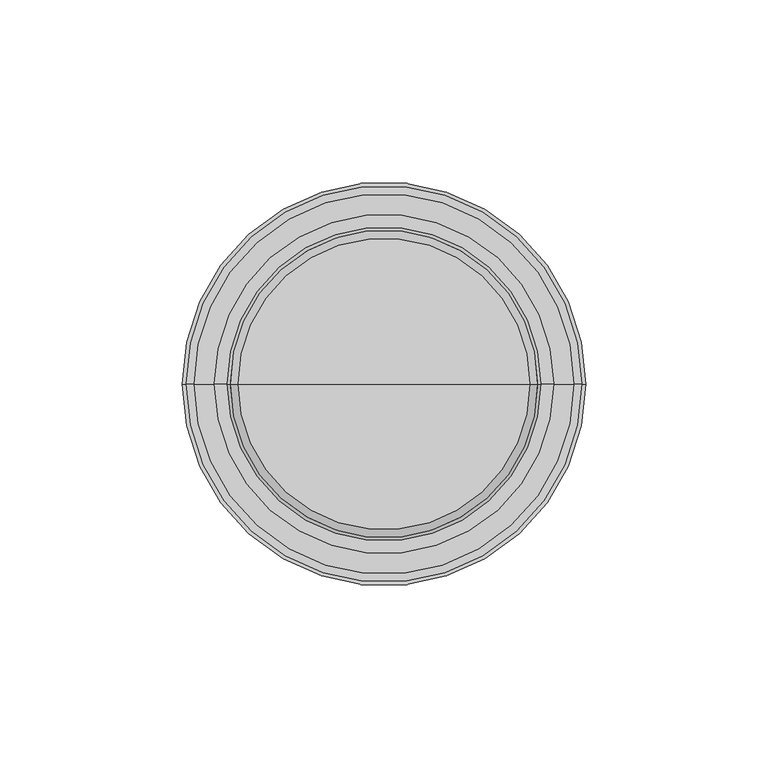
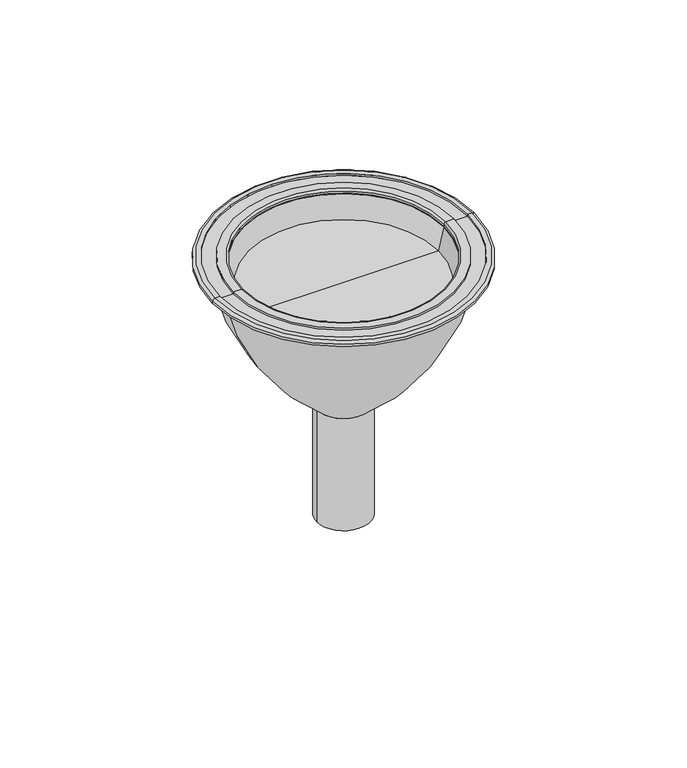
"""IFC4 building model written with IfcOpenShell, lengths in millimetres: light fixture geometry, CS HALLA RAVO (vestavné) : CS HALLA RAVO (vestavné)."""

from ifc_helpers import new_model, si_unit, point, frame, origin, place, context, project, spatial, polyline, circle_curve, ellipse_curve, trimmed, source, transform, mapped, element, save
from ifc_brep_helpers import plane_surface, cylinder_surface, revolved_surface, advanced_brep


def light_fixture_bf0697d5(model_context):
    return source(origin(), model_context, "Body", "AdvancedBrep", [
        advanced_brep(
        [(39.9833955, 0.0, -10.0), (-39.9833955, 0.0, -10.0), (0.0, 0.0, -10.0), (11.25, 0.0, -113.0), (-11.25, 0.0, -113.0), (-11.25, 0.0, -63.0), (11.25, 0.0, -63.0), (0.0, 0.0, -113.0), (50.6167692, 0.0, 0.0), (-50.6167692, 0.0, 0.0), (-42.25, 0.0, 0.0), (42.25, 0.0, 0.0)],
        [
            (0, 1, circle_curve(frame((0.0, 0.0, -10.0), z_axis=(0.0, 0.0, 1.0), x_axis=(-1.0, 0.0, 0.0)), 39.9833955)),
            (1, 2),
            (2, 0),
            (1, 0, circle_curve(frame((0.0, 0.0, -10.0), z_axis=(0.0, 0.0, 1.0), x_axis=(-1.0, 0.0, 0.0)), 39.9833955)),
            (3, 4, circle_curve(frame((0.0, 0.0, -113.0), z_axis=(0.0, 0.0, 1.0), x_axis=(-1.0, 0.0, 0.0)), 11.25)),
            (4, 5),
            (5, 6, circle_curve(frame((0.0, 0.0, -63.0), z_axis=(0.0, 0.0, -1.0), x_axis=(-1.0, 0.0, 0.0)), 11.25)),
            (6, 3),
            (4, 3, circle_curve(frame((0.0, 0.0, -113.0), z_axis=(0.0, 0.0, 1.0), x_axis=(-1.0, 0.0, 0.0)), 11.25)),
            (6, 5, circle_curve(frame((0.0, 0.0, -63.0), z_axis=(0.0, 0.0, -1.0), x_axis=(-1.0, 0.0, 0.0)), 11.25)),
            (7, 4),
            (3, 7),
            (8, 9, circle_curve(frame((0.0, 0.0, 0.0), z_axis=(0.0, 0.0, 1.0), x_axis=(-1.0, 0.0, 0.0)), 50.6167692)),
            (9, 10),
            (10, 11, circle_curve(frame((0.0, 0.0, 0.0), z_axis=(0.0, 0.0, -1.0), x_axis=(-1.0, 0.0, 0.0)), 42.25)),
            (11, 8),
            (9, 8, circle_curve(frame((0.0, 0.0, 0.0), z_axis=(0.0, 0.0, 1.0), x_axis=(-1.0, 0.0, 0.0)), 50.6167692)),
            (11, 10, circle_curve(frame((0.0, 0.0, 0.0), z_axis=(0.0, 0.0, -1.0), x_axis=(-1.0, 0.0, 0.0)), 42.25)),
            (5, 9, circle_curve(frame((55.6732, 0.0, 22.6178004), z_axis=(0.0, 1.0, 0.0), x_axis=(1.0, 0.0, 0.0)), 108.6697862)),
            (8, 6, circle_curve(frame((-55.6732, 0.0, 22.6178004), z_axis=(0.0, 1.0, 0.0), x_axis=(-1.0, 0.0, 0.0)), 108.6697862)),
            (10, 1, circle_curve(frame((37.7239368, 0.0, 12.8700537), z_axis=(0.0, -1.0, 0.0), x_axis=(1.0, 0.0, 0.0)), 81.0028941)),
            (0, 11, circle_curve(frame((-37.7239368, 0.0, 12.8700537), z_axis=(0.0, -1.0, 0.0), x_axis=(-1.0, 0.0, 0.0)), 81.0028941)),
        ],
        [
            plane_surface(frame((0.0, 0.0, -10.0), z_axis=(0.0, 0.0, 1.0), x_axis=(-1.0, 0.0, 0.0))),
            cylinder_surface(frame((0.0, 0.0, 2614.5980926), z_axis=(0.0, 0.0, -1.0), x_axis=(-1.0, 0.0, 0.0)), 11.25),
            plane_surface(frame((0.0, 0.0, -113.0), z_axis=(0.0, 0.0, -1.0), x_axis=(-1.0, 0.0, 0.0))),
            plane_surface(frame((0.0, 0.0, 0.0), z_axis=(0.0, 0.0, 1.0), x_axis=(-1.0, 0.0, 0.0))),
            revolved_surface(trimmed(ellipse_curve(frame((55.6732, 0.0, 22.6178004), z_axis=(0.0, -1.0, 0.0), x_axis=(1.0, 0.0, 0.0)), 108.6697862, 108.6697862), [point((-50.6167692, 0.0, 0.0))], [point((-11.25, 0.0, -63.0))], True, "CARTESIAN"), (0.0, 0.0, 2614.5980926), (0.0, 0.0, -1.0)),
            revolved_surface(trimmed(ellipse_curve(frame((37.7239368, 0.0, 12.8700537), z_axis=(0.0, 1.0, 0.0), x_axis=(1.0, 0.0, 0.0)), 81.0028941, 81.0028941), [point((-39.9833955, 0.0, -10.0))], [point((-42.25, 0.0, 0.0))], True, "CARTESIAN"), (0.0, 0.0, 2614.5980926), (0.0, 0.0, -1.0)),
        ],
        [
            (0, [[1, 2, 3]]),
            (0, [[4, -3, -2]]),
            (1, [[5, 6, 7, 8]]),
            (1, [[9, -8, 10, -6]]),
            (2, [[11, -5, 12]]),
            (2, [[-12, -9, -11]]),
            (3, [[13, 14, 15, 16]]),
            (3, [[17, -16, 18, -14]]),
            (4, [[-7, 19, -13, 20]]),
            (4, [[-10, -20, -17, -19]]),
            (5, [[-15, 21, -1, 22]]),
            (5, [[-18, -22, -4, -21]]),
        ],
    ),
        advanced_brep(
        [(42.25, 0.0, 0.0), (-42.25, 0.0, 0.0), (-55.3683433, 0.0, 0.0), (55.3683433, 0.0, 0.0), (42.25, 0.0, 1.1264135), (-42.25, 0.0, 1.1264135), (46.5528014, 0.0, 2.0), (-46.5528014, 0.0, 2.0), (-43.1235865, 0.0, 2.0), (43.1235865, 0.0, 2.0), (55.3683433, 0.0, 1.0337095), (-55.3683433, 0.0, 1.0337095), (-54.4020528, 0.0, 2.0), (54.4020528, 0.0, 2.0), (46.5528014, 0.0, 1.1575382), (-46.5528014, 0.0, 1.1575382), (52.2457321, 0.0, 1.1575382), (-52.2457321, 0.0, 1.1575382), (52.2457321, 0.0, 2.0), (-52.2457321, 0.0, 2.0)],
        [
            (0, 1, circle_curve(frame((0.0, 0.0, 0.0), z_axis=(0.0, 0.0, 1.0), x_axis=(-1.0, 0.0, 0.0)), 42.25)),
            (1, 2),
            (2, 3, circle_curve(frame((0.0, 0.0, 0.0), z_axis=(0.0, 0.0, -1.0), x_axis=(-1.0, 0.0, 0.0)), 55.3683433)),
            (3, 0),
            (1, 0, circle_curve(frame((0.0, 0.0, 0.0), z_axis=(0.0, 0.0, 1.0), x_axis=(-1.0, 0.0, 0.0)), 42.25)),
            (3, 2, circle_curve(frame((0.0, 0.0, 0.0), z_axis=(0.0, 0.0, -1.0), x_axis=(-1.0, 0.0, 0.0)), 55.3683433)),
            (4, 5, circle_curve(frame((0.0, 0.0, 1.1264135), z_axis=(0.0, 0.0, 1.0), x_axis=(-1.0, 0.0, 0.0)), 42.25)),
            (5, 1),
            (0, 4),
            (5, 4, circle_curve(frame((0.0, 0.0, 1.1264135), z_axis=(0.0, 0.0, 1.0), x_axis=(-1.0, 0.0, 0.0)), 42.25)),
            (6, 7, circle_curve(frame((0.0, 0.0, 2.0), z_axis=(0.0, 0.0, 1.0), x_axis=(-1.0, 0.0, 0.0)), 46.5528014)),
            (7, 8),
            (8, 9, circle_curve(frame((0.0, 0.0, 2.0), z_axis=(0.0, 0.0, -1.0), x_axis=(-1.0, 0.0, 0.0)), 43.1235865)),
            (9, 6),
            (7, 6, circle_curve(frame((0.0, 0.0, 2.0), z_axis=(0.0, 0.0, 1.0), x_axis=(-1.0, 0.0, 0.0)), 46.5528014)),
            (9, 8, circle_curve(frame((0.0, 0.0, 2.0), z_axis=(0.0, 0.0, -1.0), x_axis=(-1.0, 0.0, 0.0)), 43.1235865)),
            (10, 11, circle_curve(frame((0.0, 0.0, 1.0337095), z_axis=(0.0, 0.0, 1.0), x_axis=(-1.0, 0.0, 0.0)), 55.3683433)),
            (11, 12, circle_curve(frame((-54.4020528, 0.0, 1.0337095), z_axis=(0.0, 1.0, 0.0), x_axis=(1.0, 0.0, 0.0)), 0.9662905)),
            (12, 13, circle_curve(frame((0.0, 0.0, 2.0), z_axis=(0.0, 0.0, -1.0), x_axis=(-1.0, 0.0, 0.0)), 54.4020528)),
            (13, 10, circle_curve(frame((54.4020528, 0.0, 1.0337095), z_axis=(0.0, 1.0, 0.0), x_axis=(-1.0, 0.0, 0.0)), 0.9662905)),
            (11, 10, circle_curve(frame((0.0, 0.0, 1.0337095), z_axis=(0.0, 0.0, 1.0), x_axis=(-1.0, 0.0, 0.0)), 55.3683433)),
            (13, 12, circle_curve(frame((0.0, 0.0, 2.0), z_axis=(0.0, 0.0, -1.0), x_axis=(-1.0, 0.0, 0.0)), 54.4020528)),
            (2, 11),
            (10, 3),
            (8, 5, circle_curve(frame((-43.1235865, 0.0, 1.1264135), z_axis=(0.0, 1.0, 0.0), x_axis=(1.0, 0.0, 0.0)), 0.8735865)),
            (4, 9, circle_curve(frame((43.1235865, 0.0, 1.1264135), z_axis=(0.0, 1.0, 0.0), x_axis=(-1.0, 0.0, 0.0)), 0.8735865)),
            (14, 15, circle_curve(frame((0.0, 0.0, 1.1575382), z_axis=(0.0, 0.0, 1.0), x_axis=(-1.0, 0.0, 0.0)), 46.5528014)),
            (15, 7),
            (6, 14),
            (15, 14, circle_curve(frame((0.0, 0.0, 1.1575382), z_axis=(0.0, 0.0, 1.0), x_axis=(-1.0, 0.0, 0.0)), 46.5528014)),
            (16, 17, circle_curve(frame((0.0, 0.0, 1.1575382), z_axis=(0.0, 0.0, 1.0), x_axis=(-1.0, 0.0, 0.0)), 52.2457321)),
            (17, 15),
            (14, 16),
            (17, 16, circle_curve(frame((0.0, 0.0, 1.1575382), z_axis=(0.0, 0.0, 1.0), x_axis=(-1.0, 0.0, 0.0)), 52.2457321)),
            (18, 19, circle_curve(frame((0.0, 0.0, 2.0), z_axis=(0.0, 0.0, 1.0), x_axis=(-1.0, 0.0, 0.0)), 52.2457321)),
            (19, 17),
            (16, 18),
            (19, 18, circle_curve(frame((0.0, 0.0, 2.0), z_axis=(0.0, 0.0, 1.0), x_axis=(-1.0, 0.0, 0.0)), 52.2457321)),
            (12, 19),
            (18, 13),
        ],
        [
            plane_surface(frame((0.0, 0.0, 0.0), z_axis=(0.0, 0.0, -1.0), x_axis=(-1.0, 0.0, 0.0))),
            revolved_surface(polyline([(-42.25, 0.0, 0.0), (-42.25, 0.0, 1.126413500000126)]), (0.0, 0.0, 2609.0581012), (0.0, 0.0, -1.0)),
            plane_surface(frame((0.0, 0.0, 2.0), z_axis=(0.0, 0.0, 1.0), x_axis=(-1.0, 0.0, 0.0))),
            revolved_surface(trimmed(ellipse_curve(frame((-54.4020528, 0.0, 1.0337095), z_axis=(0.0, -1.0, 0.0), x_axis=(1.0, 0.0, 0.0)), 0.9662905, 0.9662905), [point((-54.4020528, 0.0, 2.0))], [point((-55.3683433, 0.0, 1.0337095))], True, "CARTESIAN"), (0.0, 0.0, 2609.0581012), (0.0, 0.0, -1.0)),
            cylinder_surface(frame((0.0, 0.0, 2609.0581012), z_axis=(0.0, 0.0, -1.0), x_axis=(-1.0, 0.0, 0.0)), 55.3683433),
            revolved_surface(trimmed(ellipse_curve(frame((-43.1235865, 0.0, 1.1264135), z_axis=(0.0, -1.0, 0.0), x_axis=(1.0, 0.0, 0.0)), 0.8735865, 0.8735865), [point((-42.25, 0.0, 1.1264135))], [point((-43.1235865, 0.0, 2.0))], True, "CARTESIAN"), (0.0, 0.0, 2609.0581012), (0.0, 0.0, -1.0)),
            cylinder_surface(frame((0.0, 0.0, 2609.0581012), z_axis=(0.0, 0.0, -1.0), x_axis=(-1.0, 0.0, 0.0)), 46.5528014),
            plane_surface(frame((0.0, 0.0, 1.1575382), z_axis=(0.0, 0.0, 1.0), x_axis=(-1.0, 0.0, 0.0))),
            revolved_surface(polyline([(-52.2457321, 0.0, 1.15753820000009), (-52.2457321, 0.0, 2.0)]), (0.0, 0.0, 2609.0581012), (0.0, 0.0, -1.0)),
        ],
        [
            (0, [[1, 2, 3, 4]]),
            (0, [[5, -4, 6, -2]]),
            (1, [[7, 8, -1, 9]]),
            (1, [[10, -9, -5, -8]]),
            (2, [[11, 12, 13, 14]]),
            (2, [[15, -14, 16, -12]]),
            (3, [[17, 18, 19, 20]]),
            (3, [[21, -20, 22, -18]]),
            (4, [[-3, 23, -17, 24]]),
            (4, [[-6, -24, -21, -23]]),
            (5, [[-13, 25, -7, 26]]),
            (5, [[-16, -26, -10, -25]]),
            (6, [[27, 28, -11, 29]]),
            (6, [[30, -29, -15, -28]]),
            (7, [[31, 32, -27, 33]]),
            (7, [[34, -33, -30, -32]]),
            (8, [[35, 36, -31, 37]]),
            (8, [[38, -37, -34, -36]]),
            (2, [[-19, 39, -35, 40]]),
            (2, [[-22, -40, -38, -39]]),
        ],
    ),
    ])


if __name__ == "__main__":
    model = new_model("IFC4")
    model_context = context("Model", 3, world=origin())
    ifc_project = project(units=[si_unit("LENGTHUNIT", "METRE", prefix="MILLI")], contexts=[model_context])
    site = spatial("IfcSite", under=ifc_project)
    building = spatial("IfcBuilding", under=site)
    placement = place(None, origin())
    light_fixture_shape = light_fixture_bf0697d5(model_context)
    element("IfcLightFixture", 1, ObjectType="CS HALLA RAVO (vestavné) : CS HALLA RAVO (vestavné)", at=placement, inside=building, context=model_context, shape_type="MappedRepresentation", body=[
        mapped(light_fixture_shape, transform((0.0, 0.0, 0.0), x_axis=(1.0, 0.0, 0.0), y_axis=(0.0, 1.0, 0.0), z_axis=(0.0, 0.0, 1.0))),
    ])
    save(model, "model.ifc")
